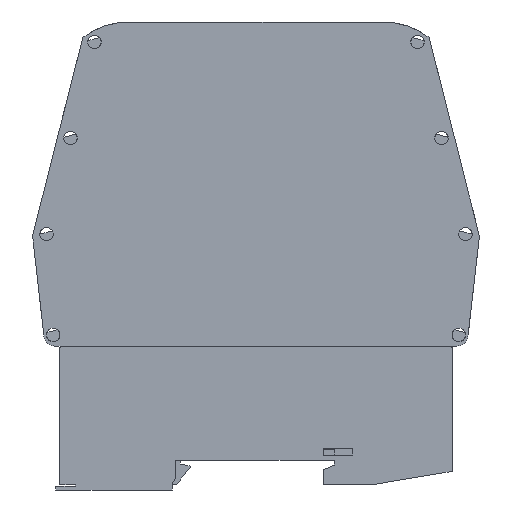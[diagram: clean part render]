
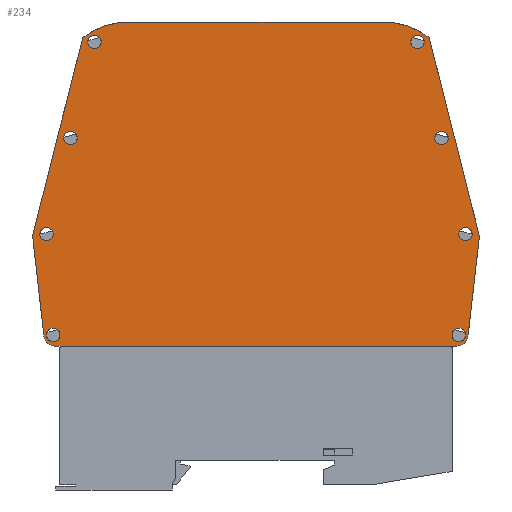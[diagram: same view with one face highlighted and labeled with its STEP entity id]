
A CAD part, left-side view. The second image highlights one B-rep face of the part: STEP entity #234.
In plain terms, the highlighted planar face has unit normal (-1, 0, 0).
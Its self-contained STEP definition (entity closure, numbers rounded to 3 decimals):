
#234 = ADVANCED_FACE( '', ( #662, #663, #664, #665, #666, #667, #668, #669, #670 ), #671, .F. );
#662 = FACE_BOUND( '', #1178, .T. );
#663 = FACE_BOUND( '', #1179, .T. );
#664 = FACE_BOUND( '', #1180, .T. );
#665 = FACE_BOUND( '', #1181, .T. );
#666 = FACE_BOUND( '', #1182, .T. );
#667 = FACE_BOUND( '', #1183, .T. );
#668 = FACE_BOUND( '', #1184, .T. );
#669 = FACE_BOUND( '', #1185, .T. );
#670 = FACE_OUTER_BOUND( '', #1186, .T. );
#671 = PLANE( '', #1187 );
#1178 = EDGE_LOOP( '', ( #2548 ) );
#1179 = EDGE_LOOP( '', ( #2549 ) );
#1180 = EDGE_LOOP( '', ( #2550 ) );
#1181 = EDGE_LOOP( '', ( #2551 ) );
#1182 = EDGE_LOOP( '', ( #2552 ) );
#1183 = EDGE_LOOP( '', ( #2553 ) );
#1184 = EDGE_LOOP( '', ( #2554 ) );
#1185 = EDGE_LOOP( '', ( #2555 ) );
#1186 = EDGE_LOOP( '', ( #2556, #2557, #2558, #2559, #2560, #2561, #2562, #2563, #2564, #2565 ) );
#1187 = AXIS2_PLACEMENT_3D( '', #2566, #2567, #2568 );
#2548 = ORIENTED_EDGE( '', *, *, #3587, .T. );
#2549 = ORIENTED_EDGE( '', *, *, #3591, .T. );
#2550 = ORIENTED_EDGE( '', *, *, #3595, .T. );
#2551 = ORIENTED_EDGE( '', *, *, #3596, .T. );
#2552 = ORIENTED_EDGE( '', *, *, #3597, .T. );
#2553 = ORIENTED_EDGE( '', *, *, #3598, .T. );
#2554 = ORIENTED_EDGE( '', *, *, #3599, .T. );
#2555 = ORIENTED_EDGE( '', *, *, #3600, .T. );
#2556 = ORIENTED_EDGE( '', *, *, #3601, .F. );
#2557 = ORIENTED_EDGE( '', *, *, #3602, .F. );
#2558 = ORIENTED_EDGE( '', *, *, #3603, .F. );
#2559 = ORIENTED_EDGE( '', *, *, #3604, .F. );
#2560 = ORIENTED_EDGE( '', *, *, #3605, .F. );
#2561 = ORIENTED_EDGE( '', *, *, #3606, .F. );
#2562 = ORIENTED_EDGE( '', *, *, #3607, .F. );
#2563 = ORIENTED_EDGE( '', *, *, #3608, .F. );
#2564 = ORIENTED_EDGE( '', *, *, #3609, .F. );
#2565 = ORIENTED_EDGE( '', *, *, #3610, .F. );
#2566 = CARTESIAN_POINT( '', ( 0., 28.25, 85.9 ) );
#2567 = DIRECTION( '', ( 1., 0., 0. ) );
#2568 = DIRECTION( '', ( 0., 0., -1. ) );
#3587 = EDGE_CURVE( '', #4492, #4492, #4493, .T. );
#3591 = EDGE_CURVE( '', #4497, #4497, #4498, .T. );
#3595 = EDGE_CURVE( '', #4502, #4502, #4503, .T. );
#3596 = EDGE_CURVE( '', #4504, #4504, #4505, .T. );
#3597 = EDGE_CURVE( '', #4506, #4506, #4507, .T. );
#3598 = EDGE_CURVE( '', #4508, #4508, #4509, .T. );
#3599 = EDGE_CURVE( '', #4510, #4510, #4511, .T. );
#3600 = EDGE_CURVE( '', #4512, #4512, #4513, .T. );
#3601 = EDGE_CURVE( '', #4514, #4515, #4516, .T. );
#3602 = EDGE_CURVE( '', #4517, #4514, #4518, .T. );
#3603 = EDGE_CURVE( '', #4519, #4517, #4520, .T. );
#3604 = EDGE_CURVE( '', #4521, #4519, #4522, .T. );
#3605 = EDGE_CURVE( '', #4523, #4521, #4524, .T. );
#3606 = EDGE_CURVE( '', #4525, #4523, #4526, .T. );
#3607 = EDGE_CURVE( '', #4527, #4525, #4528, .T. );
#3608 = EDGE_CURVE( '', #4529, #4527, #4530, .T. );
#3609 = EDGE_CURVE( '', #4531, #4529, #4532, .T. );
#3610 = EDGE_CURVE( '', #4515, #4531, #4533, .T. );
#4492 = VERTEX_POINT( '', #5792 );
#4493 = CIRCLE( '', #5793, 1.5 );
#4497 = VERTEX_POINT( '', #5799 );
#4498 = CIRCLE( '', #5800, 1.5 );
#4502 = VERTEX_POINT( '', #5804 );
#4503 = CIRCLE( '', #5805, 1.5 );
#4504 = VERTEX_POINT( '', #5806 );
#4505 = CIRCLE( '', #5807, 1.5 );
#4506 = VERTEX_POINT( '', #5808 );
#4507 = CIRCLE( '', #5809, 1.5 );
#4508 = VERTEX_POINT( '', #5810 );
#4509 = CIRCLE( '', #5811, 1.5 );
#4510 = VERTEX_POINT( '', #5812 );
#4511 = CIRCLE( '', #5813, 1.5 );
#4512 = VERTEX_POINT( '', #5814 );
#4513 = CIRCLE( '', #5815, 1.5 );
#4514 = VERTEX_POINT( '', #5816 );
#4515 = VERTEX_POINT( '', #5817 );
#4516 = CIRCLE( '', #5818, 17.5 );
#4517 = VERTEX_POINT( '', #5819 );
#4518 = LINE( '', #5820, #5821 );
#4519 = VERTEX_POINT( '', #5822 );
#4520 = LINE( '', #5823, #5824 );
#4521 = VERTEX_POINT( '', #5825 );
#4522 = CIRCLE( '', #5826, 2.5 );
#4523 = VERTEX_POINT( '', #5827 );
#4524 = LINE( '', #5828, #5829 );
#4525 = VERTEX_POINT( '', #5830 );
#4526 = CIRCLE( '', #5831, 2.5 );
#4527 = VERTEX_POINT( '', #5832 );
#4528 = LINE( '', #5833, #5834 );
#4529 = VERTEX_POINT( '', #5835 );
#4530 = LINE( '', #5836, #5837 );
#4531 = VERTEX_POINT( '', #5838 );
#4532 = CIRCLE( '', #5839, 17.5 );
#4533 = LINE( '', #5840, #5841 );
#5792 = CARTESIAN_POINT( '', ( 0., -36.095, 97.446 ) );
#5793 = AXIS2_PLACEMENT_3D( '', #6622, #6623, #6624 );
#5799 = CARTESIAN_POINT( '', ( 0., 36.095, 97.446 ) );
#5800 = AXIS2_PLACEMENT_3D( '', #6630, #6631, #6632 );
#5804 = CARTESIAN_POINT( '', ( 0., -41.448, 75.968 ) );
#5805 = AXIS2_PLACEMENT_3D( '', #6642, #6643, #6644 );
#5806 = CARTESIAN_POINT( '', ( 0., 41.448, 75.968 ) );
#5807 = AXIS2_PLACEMENT_3D( '', #6645, #6646, #6647 );
#5808 = CARTESIAN_POINT( '', ( 0., -46.8, 54.5 ) );
#5809 = AXIS2_PLACEMENT_3D( '', #6648, #6649, #6650 );
#5810 = CARTESIAN_POINT( '', ( 0., 46.8, 54.5 ) );
#5811 = AXIS2_PLACEMENT_3D( '', #6651, #6652, #6653 );
#5812 = CARTESIAN_POINT( '', ( 0., -45.3, 32. ) );
#5813 = AXIS2_PLACEMENT_3D( '', #6654, #6655, #6656 );
#5814 = CARTESIAN_POINT( '', ( 0., 45.3, 32. ) );
#5815 = AXIS2_PLACEMENT_3D( '', #6657, #6658, #6659 );
#5816 = CARTESIAN_POINT( '', ( 0., 38.676, 99.955 ) );
#5817 = CARTESIAN_POINT( '', ( 0., 28.25, 103.4 ) );
#5818 = AXIS2_PLACEMENT_3D( '', #6660, #6661, #6662 );
#5819 = CARTESIAN_POINT( '', ( 0., 49.902, 55.604 ) );
#5820 = CARTESIAN_POINT( '', ( 0., 49.902, 55.604 ) );
#5821 = VECTOR( '', #6663, 1000. );
#5822 = CARTESIAN_POINT( '', ( 0., 47.4, 33.5 ) );
#5823 = CARTESIAN_POINT( '', ( 0., 47.4, 33.5 ) );
#5824 = VECTOR( '', #6664, 1000. );
#5825 = CARTESIAN_POINT( '', ( 0., 44.9, 31. ) );
#5826 = AXIS2_PLACEMENT_3D( '', #6665, #6666, #6667 );
#5827 = CARTESIAN_POINT( '', ( 0., -44.9, 31. ) );
#5828 = CARTESIAN_POINT( '', ( 0., -44.9, 31. ) );
#5829 = VECTOR( '', #6668, 1000. );
#5830 = CARTESIAN_POINT( '', ( 0., -47.4, 33.5 ) );
#5831 = AXIS2_PLACEMENT_3D( '', #6669, #6670, #6671 );
#5832 = CARTESIAN_POINT( '', ( 0., -49.913, 55.562 ) );
#5833 = CARTESIAN_POINT( '', ( 0., -49.913, 55.562 ) );
#5834 = VECTOR( '', #6672, 1000. );
#5835 = CARTESIAN_POINT( '', ( 0., -38.676, 99.955 ) );
#5836 = CARTESIAN_POINT( '', ( 0., -38.676, 99.955 ) );
#5837 = VECTOR( '', #6673, 1000. );
#5838 = CARTESIAN_POINT( '', ( 0., -28.25, 103.4 ) );
#5839 = AXIS2_PLACEMENT_3D( '', #6674, #6675, #6676 );
#5840 = CARTESIAN_POINT( '', ( 0., 28.25, 103.4 ) );
#5841 = VECTOR( '', #6677, 1000. );
#6622 = CARTESIAN_POINT( '', ( 0., -36.095, 98.946 ) );
#6623 = DIRECTION( '', ( 1., 0., 0. ) );
#6624 = DIRECTION( '', ( 0., 0., -1. ) );
#6630 = CARTESIAN_POINT( '', ( 0., 36.095, 98.946 ) );
#6631 = DIRECTION( '', ( 1., 0., 0. ) );
#6632 = DIRECTION( '', ( 0., 0., -1. ) );
#6642 = CARTESIAN_POINT( '', ( 0., -41.448, 77.468 ) );
#6643 = DIRECTION( '', ( 1., 0., 0. ) );
#6644 = DIRECTION( '', ( 0., 0., -1. ) );
#6645 = CARTESIAN_POINT( '', ( 0., 41.448, 77.468 ) );
#6646 = DIRECTION( '', ( 1., 0., 0. ) );
#6647 = DIRECTION( '', ( 0., 0., -1. ) );
#6648 = CARTESIAN_POINT( '', ( 0., -46.8, 56. ) );
#6649 = DIRECTION( '', ( 1., 0., 0. ) );
#6650 = DIRECTION( '', ( 0., 0., -1. ) );
#6651 = CARTESIAN_POINT( '', ( 0., 46.8, 56. ) );
#6652 = DIRECTION( '', ( 1., 0., 0. ) );
#6653 = DIRECTION( '', ( 0., 0., -1. ) );
#6654 = CARTESIAN_POINT( '', ( 0., -45.3, 33.5 ) );
#6655 = DIRECTION( '', ( 1., 0., 0. ) );
#6656 = DIRECTION( '', ( 0., 0., -1. ) );
#6657 = CARTESIAN_POINT( '', ( 0., 45.3, 33.5 ) );
#6658 = DIRECTION( '', ( 1., 0., 0. ) );
#6659 = DIRECTION( '', ( 0., 0., -1. ) );
#6660 = CARTESIAN_POINT( '', ( 0., 28.25, 85.9 ) );
#6661 = DIRECTION( '', ( 1., 0., 0. ) );
#6662 = DIRECTION( '', ( 0., 0., -1. ) );
#6663 = DIRECTION( '', ( 0., -0.245, 0.969 ) );
#6664 = DIRECTION( '', ( 0., 0.112, 0.994 ) );
#6665 = CARTESIAN_POINT( '', ( 0., 44.9, 33.5 ) );
#6666 = DIRECTION( '', ( 1., 0., 0. ) );
#6667 = DIRECTION( '', ( 0., 0., -1. ) );
#6668 = DIRECTION( '', ( 0., 1., 0. ) );
#6669 = CARTESIAN_POINT( '', ( 0., -44.9, 33.5 ) );
#6670 = DIRECTION( '', ( 1., 0., 0. ) );
#6671 = DIRECTION( '', ( 0., 0., -1. ) );
#6672 = DIRECTION( '', ( 0., 0.113, -0.994 ) );
#6673 = DIRECTION( '', ( 0., -0.245, -0.969 ) );
#6674 = CARTESIAN_POINT( '', ( 0., -28.25, 85.9 ) );
#6675 = DIRECTION( '', ( 1., 0., 0. ) );
#6676 = DIRECTION( '', ( 0., 0., -1. ) );
#6677 = DIRECTION( '', ( 0., -1., 0. ) );
